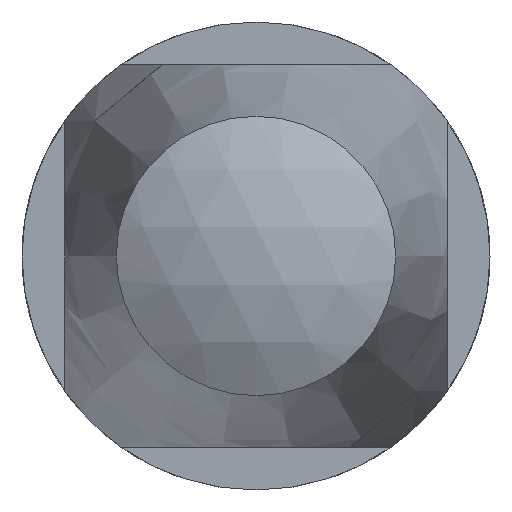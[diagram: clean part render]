
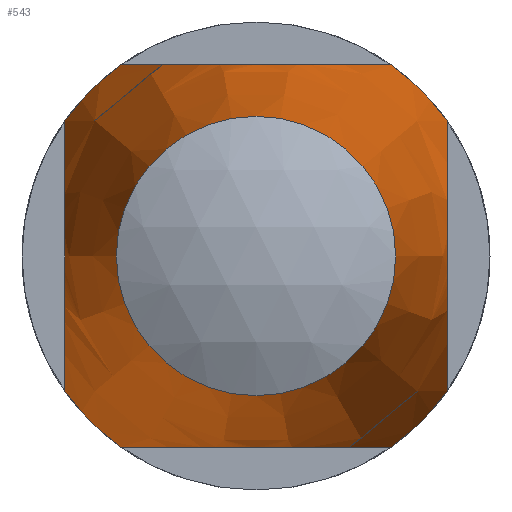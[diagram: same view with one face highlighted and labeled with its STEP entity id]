
A CAD part, front view. The second image highlights one B-rep face of the part: STEP entity #543.
In plain terms, the highlighted conical face has half-angle 10 degrees and reference radius 1.956 mm.
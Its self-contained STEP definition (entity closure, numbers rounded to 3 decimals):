
#20=(
BOUNDED_CURVE()
B_SPLINE_CURVE(2,(#995,#996,#997),.UNSPECIFIED.,.F.,.F.)
B_SPLINE_CURVE_WITH_KNOTS((3,3),(0.,0.584),.UNSPECIFIED.)
CURVE()
GEOMETRIC_REPRESENTATION_ITEM()
RATIONAL_B_SPLINE_CURVE((1.,1.225,1.))
REPRESENTATION_ITEM('')
);
#21=(
BOUNDED_CURVE()
B_SPLINE_CURVE(2,(#1003,#1004,#1005),.UNSPECIFIED.,.F.,.F.)
B_SPLINE_CURVE_WITH_KNOTS((3,3),(0.,0.584),.UNSPECIFIED.)
CURVE()
GEOMETRIC_REPRESENTATION_ITEM()
RATIONAL_B_SPLINE_CURVE((1.,1.225,1.))
REPRESENTATION_ITEM('')
);
#22=(
BOUNDED_CURVE()
B_SPLINE_CURVE(2,(#1011,#1012,#1013),.UNSPECIFIED.,.F.,.F.)
B_SPLINE_CURVE_WITH_KNOTS((3,3),(0.,0.584),.UNSPECIFIED.)
CURVE()
GEOMETRIC_REPRESENTATION_ITEM()
RATIONAL_B_SPLINE_CURVE((1.,1.225,1.))
REPRESENTATION_ITEM('')
);
#23=(
BOUNDED_CURVE()
B_SPLINE_CURVE(2,(#1019,#1020,#1021),.UNSPECIFIED.,.F.,.F.)
B_SPLINE_CURVE_WITH_KNOTS((3,3),(0.,0.584),.UNSPECIFIED.)
CURVE()
GEOMETRIC_REPRESENTATION_ITEM()
RATIONAL_B_SPLINE_CURVE((1.,1.225,1.))
REPRESENTATION_ITEM('')
);
#147=FACE_BOUND('',#231,.T.);
#185=FACE_OUTER_BOUND('',#230,.T.);
#230=EDGE_LOOP('',(#500,#501,#502,#503,#504,#505,#506,#507));
#231=EDGE_LOOP('',(#508));
#247=CIRCLE('',#593,2.45);
#248=CIRCLE('',#594,2.45);
#249=CIRCLE('',#595,2.45);
#250=CIRCLE('',#596,2.45);
#252=CIRCLE('',#602,1.463);
#291=VERTEX_POINT('',#992);
#292=VERTEX_POINT('',#994);
#293=VERTEX_POINT('',#1000);
#294=VERTEX_POINT('',#1002);
#295=VERTEX_POINT('',#1008);
#296=VERTEX_POINT('',#1010);
#297=VERTEX_POINT('',#1016);
#298=VERTEX_POINT('',#1018);
#301=VERTEX_POINT('',#1055);
#351=EDGE_CURVE('',#292,#291,#20,.T.);
#354=EDGE_CURVE('',#294,#293,#21,.T.);
#357=EDGE_CURVE('',#296,#295,#22,.T.);
#360=EDGE_CURVE('',#298,#297,#23,.T.);
#362=EDGE_CURVE('',#292,#297,#247,.T.);
#363=EDGE_CURVE('',#298,#295,#248,.T.);
#364=EDGE_CURVE('',#296,#293,#249,.T.);
#365=EDGE_CURVE('',#294,#291,#250,.T.);
#370=EDGE_CURVE('',#301,#301,#252,.T.);
#500=ORIENTED_EDGE('',*,*,#351,.T.);
#501=ORIENTED_EDGE('',*,*,#365,.F.);
#502=ORIENTED_EDGE('',*,*,#354,.T.);
#503=ORIENTED_EDGE('',*,*,#364,.F.);
#504=ORIENTED_EDGE('',*,*,#357,.T.);
#505=ORIENTED_EDGE('',*,*,#363,.F.);
#506=ORIENTED_EDGE('',*,*,#360,.T.);
#507=ORIENTED_EDGE('',*,*,#362,.F.);
#508=ORIENTED_EDGE('',*,*,#370,.T.);
#510=CONICAL_SURFACE('',#603,1.956,10.);
#543=ADVANCED_FACE('',(#185,#147),#510,.T.);
#593=AXIS2_PLACEMENT_3D('',#1024,#731,#732);
#594=AXIS2_PLACEMENT_3D('',#1025,#733,#734);
#595=AXIS2_PLACEMENT_3D('',#1026,#735,#736);
#596=AXIS2_PLACEMENT_3D('',#1027,#737,#738);
#602=AXIS2_PLACEMENT_3D('',#1056,#751,#752);
#603=AXIS2_PLACEMENT_3D('',#1057,#753,#754);
#731=DIRECTION('center_axis',(0.,1.,0.));
#732=DIRECTION('ref_axis',(-1.,0.,0.));
#733=DIRECTION('center_axis',(0.,1.,0.));
#734=DIRECTION('ref_axis',(-1.,0.,0.));
#735=DIRECTION('center_axis',(0.,1.,0.));
#736=DIRECTION('ref_axis',(-1.,0.,0.));
#737=DIRECTION('center_axis',(0.,1.,0.));
#738=DIRECTION('ref_axis',(-1.,0.,0.));
#751=DIRECTION('center_axis',(0.,1.,0.));
#752=DIRECTION('ref_axis',(-1.,0.,0.));
#753=DIRECTION('center_axis',(0.,1.,0.));
#754=DIRECTION('ref_axis',(-1.,0.,0.));
#992=CARTESIAN_POINT('',(-2.,-15.74,-1.415));
#994=CARTESIAN_POINT('',(-2.,-15.74,1.415));
#995=CARTESIAN_POINT('Ctrl Pts',(-2.,-15.74,1.415));
#996=CARTESIAN_POINT('Ctrl Pts',(-2.,-20.375,0.));
#997=CARTESIAN_POINT('Ctrl Pts',(-2.,-15.74,-1.415));
#1000=CARTESIAN_POINT('',(1.415,-15.74,-2.));
#1002=CARTESIAN_POINT('',(-1.415,-15.74,-2.));
#1003=CARTESIAN_POINT('Ctrl Pts',(-1.415,-15.74,-2.));
#1004=CARTESIAN_POINT('Ctrl Pts',(0.,-20.375,
-2.));
#1005=CARTESIAN_POINT('Ctrl Pts',(1.415,-15.74,-2.));
#1008=CARTESIAN_POINT('',(2.,-15.74,1.415));
#1010=CARTESIAN_POINT('',(2.,-15.74,-1.415));
#1011=CARTESIAN_POINT('Ctrl Pts',(2.,-15.74,-1.415));
#1012=CARTESIAN_POINT('Ctrl Pts',(2.,-20.375,0.));
#1013=CARTESIAN_POINT('Ctrl Pts',(2.,-15.74,1.415));
#1016=CARTESIAN_POINT('',(-1.415,-15.74,2.));
#1018=CARTESIAN_POINT('',(1.415,-15.74,2.));
#1019=CARTESIAN_POINT('Ctrl Pts',(1.415,-15.74,2.));
#1020=CARTESIAN_POINT('Ctrl Pts',(0.,-20.375,
2.));
#1021=CARTESIAN_POINT('Ctrl Pts',(-1.415,-15.74,2.));
#1024=CARTESIAN_POINT('Origin',(0.,-15.74,0.));
#1025=CARTESIAN_POINT('Origin',(0.,-15.74,0.));
#1026=CARTESIAN_POINT('Origin',(0.,-15.74,0.));
#1027=CARTESIAN_POINT('Origin',(0.,-15.74,0.));
#1055=CARTESIAN_POINT('',(-1.463,-21.34,0.));
#1056=CARTESIAN_POINT('Origin',(0.,-21.34,0.));
#1057=CARTESIAN_POINT('Origin',(0.,-18.54,0.));
